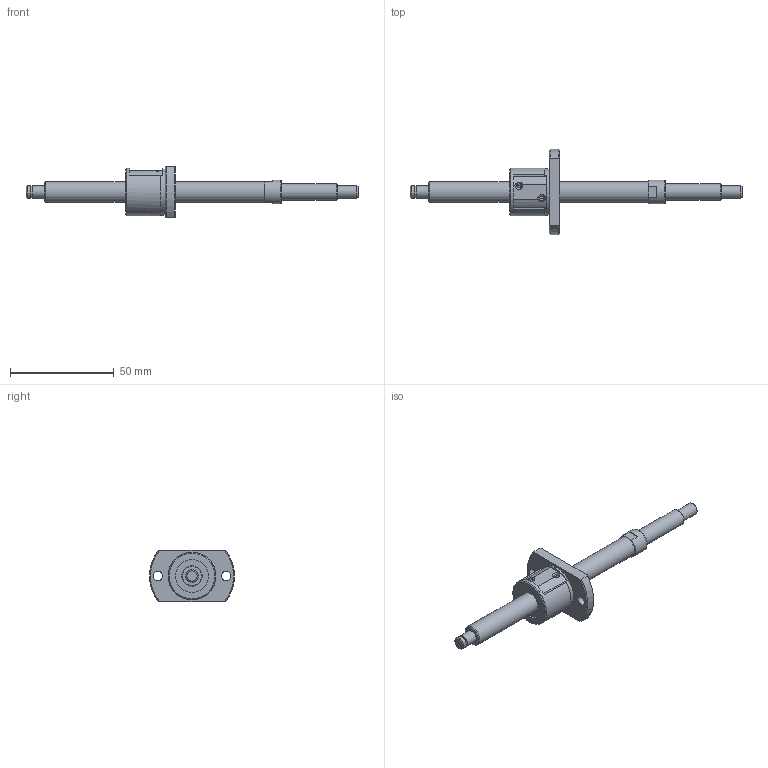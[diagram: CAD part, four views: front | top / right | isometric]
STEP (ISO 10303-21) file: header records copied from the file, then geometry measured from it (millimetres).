
FILE_DESCRIPTION(/* description */ ('STEP AP214'),/* implementation_level */ '2;1');
FILE_NAME(/* name */ 'SG1002-102R160C5B0X(39)',/* time_stamp */ '2026-07-24T15:13:19+02:00',/* author */ ('License CC BY-ND 4.0'),/* organization */ ('CADENAS'),/* preprocessor_version */ 'ST-DEVELOPER v20',/* originating_system */ 'PARTsolutions',/* authorisation */ ' ');
FILE_SCHEMA (('AUTOMOTIVE_DESIGN {1 0 10303 214 3 1 1}'));
Length unit declared in the file: millimetre
Products named in the file (3): SG1002-102R160C5B0X(39); SG1002-102R160C5B_shaft; SG1002 C5_nut
Assembly tree (2 placements, depth 2):
  SG1002-102R160C5B0X(39)
    SG1002-102R160C5B_shaft
    SG1002 C5_nut
Bounding box: 160 x 41 x 25 mm (x, y, z)
Volume: 21145.9 mm3; surface area: 9429.2 mm2
Topology: 2 solids, 2 shells, 79 faces, 188 edges, 123 vertices
Faces by surface type: plane 38, cylinder 26, cone 14, torus 1
Full cylindrical faces by diameter (mm): 4.5 x2, 5.7 x1, 6 x3, 8 x1, 10 x2, 11.5 x1, 16 x2, 22.6 x1, 23 x1
Entity records: 2197 total; most frequent: CARTESIAN_POINT 408, DIRECTION 374, ORIENTED_EDGE 306, AXIS2_PLACEMENT_3D 157, EDGE_CURVE 153, EDGE_LOOP 120, FACE_BOUND 120, VERTEX_POINT 113
